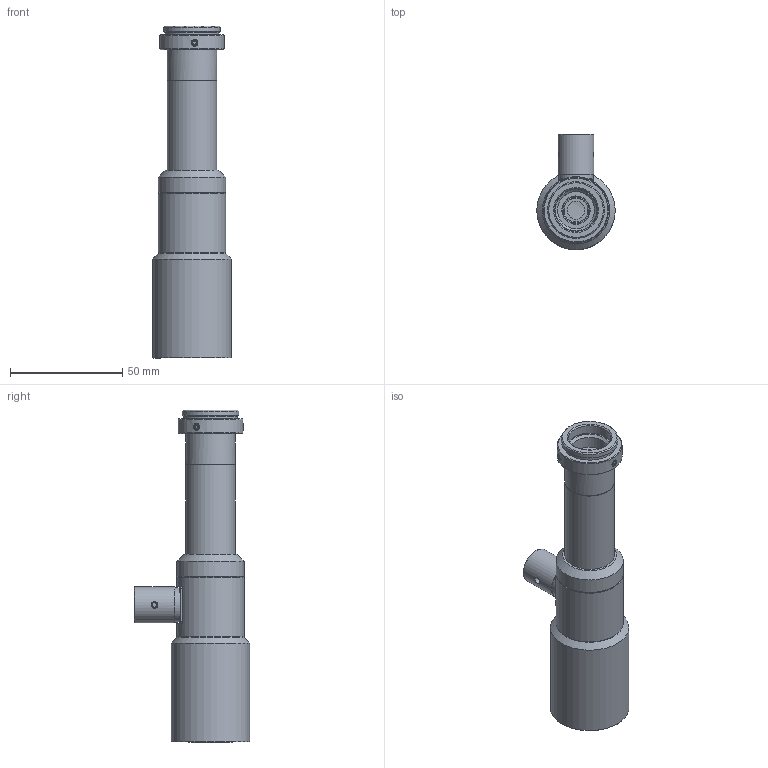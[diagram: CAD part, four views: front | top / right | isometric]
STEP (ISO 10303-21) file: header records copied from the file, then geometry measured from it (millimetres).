
FILE_DESCRIPTION(('STEP AP214'),'1');
FILE_NAME('RTK-3F-M110.stp','2026-03-04T03:25:19',(' '),(' '),'Spatial InterOp 3D',' ',' ');
FILE_SCHEMA(('AUTOMOTIVE_DESIGN { 1 0 10303 214 1 1 1 1 }'));
Length unit declared in the file: metre
Products named in the file (2): RTK-3F-M110; Component1
Assembly tree (1 placements, depth 2):
  RTK-3F-M110
    Component1
Bounding box: 35 x 51.5 x 148 mm (x, y, z)
Volume: 45223.2 mm3; surface area: 31432.8 mm2
Topology: 1 solids, 17 shells, 370 faces, 838 edges, 545 vertices
Faces by surface type: plane 178, cone 98, cylinder 77, torus 8, sphere 6, bspline 3
Full cylindrical faces by diameter (mm): 1.7 x8, 1.8 x4, 3 x3, 8 x2, 10.5 x2, 12 x2, 12.8 x1, 12.9 x1, 13.7 x1, 14 x1, 14.2 x1, 15 x1, 15.5 x1, 16 x2, 16.5 x1, 17.2 x1, 18.2 x1, 19 x3, 19.02 x1, 20.4 x1, 21.2 x1, 21.9 x1, 22 x4, 24.12 x1, 24.6 x2, 24.8 x2, 25.32 x1, 25.6 x2, 27 x4, 28.5 x1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
Entity records: 13008 total; most frequent: CARTESIAN_POINT 2435, DIRECTION 1638, ORIENTED_EDGE 1292, AXIS2_PLACEMENT_3D 708, EDGE_CURVE 646, EDGE_LOOP 574, VERTEX_POINT 492, FACE_OUTER_BOUND 445
